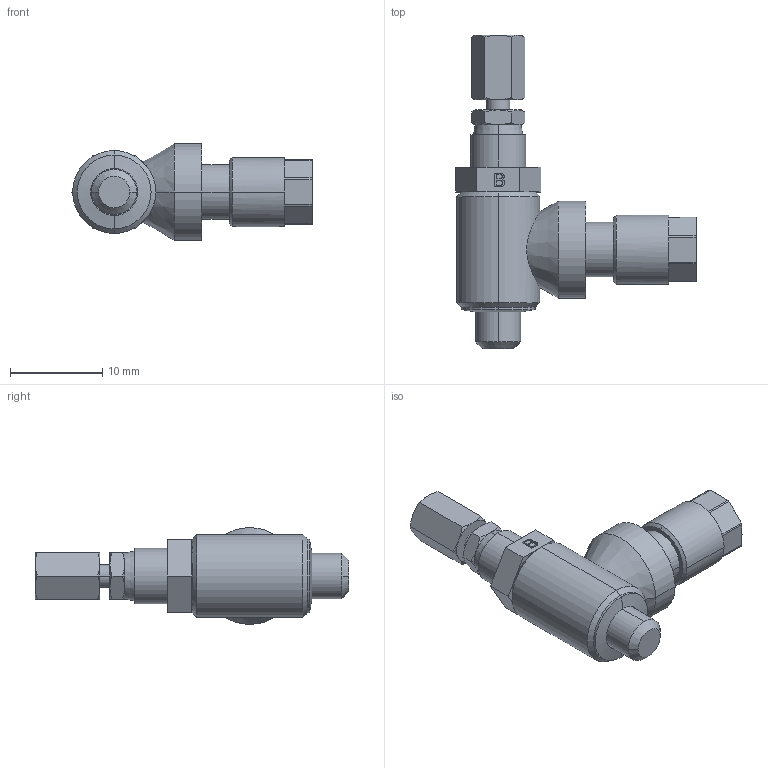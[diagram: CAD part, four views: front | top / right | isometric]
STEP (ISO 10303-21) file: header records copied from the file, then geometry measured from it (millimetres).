
FILE_DESCRIPTION (( 'STEP AP203' ), '1' );
FILE_NAME ('249738.STEP', '2016-09-22T09:07:57', ( '' ), ( '' ), 'SwSTEP 2.0', 'SolidWorks 2016', '' );
FILE_SCHEMA (( 'CONFIG_CONTROL_DESIGN' ));
Length unit declared in the file: millimetre
Products named in the file (1): 249738
Bounding box: 26.12 x 34 x 10.5 mm (x, y, z)
Volume: 2227.5 mm3; surface area: 1423.4 mm2
Topology: 1 solids, 1 shells, 138 faces, 319 edges, 194 vertices
Faces by surface type: plane 62, cone 48, cylinder 18, bspline 10
Entity records: 4544 total; most frequent: CARTESIAN_POINT 1464, ORIENTED_EDGE 638, DIRECTION 593, EDGE_CURVE 319, AXIS2_PLACEMENT_3D 231, VERTEX_POINT 194, EDGE_LOOP 149, ADVANCED_FACE 138
